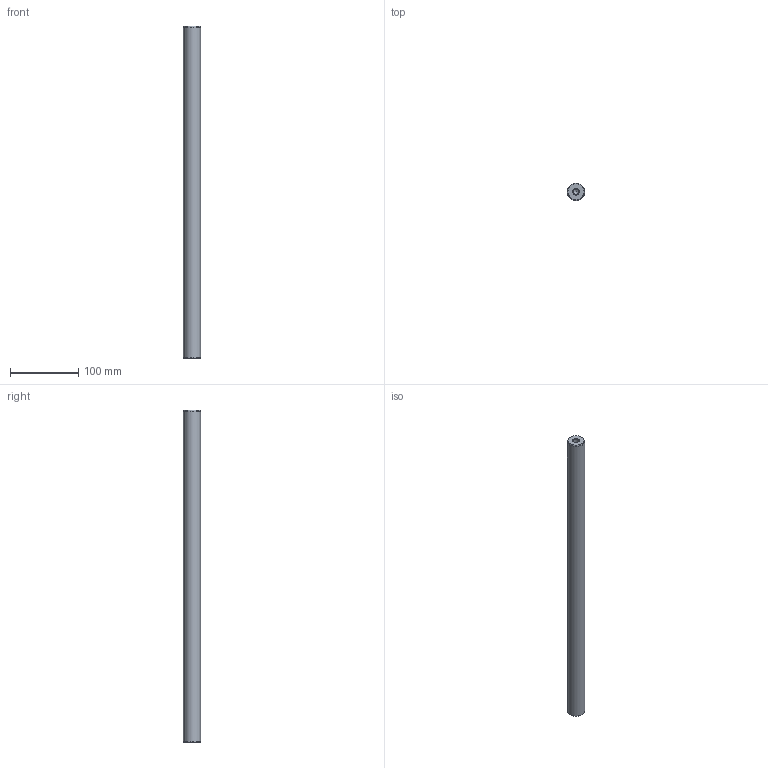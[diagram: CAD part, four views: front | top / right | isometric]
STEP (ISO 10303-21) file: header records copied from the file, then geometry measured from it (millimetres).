
FILE_DESCRIPTION( ( 'STEP AP214' ), '1' );
FILE_NAME( 'U:/Etudes/Top Solid/BIBLIO_Fournisseur/Colonnes UG/Ø25x486.step', '2004-12-22T12:44:46', ( ' ' ), ( ' ' ), 'XStep 1.0', ' ', ' ' );
FILE_SCHEMA( ( 'automotive_design' ) );
Length unit declared in the file: metre
Products named in the file (1): 1
Bounding box: 25 x 25 x 486 mm (x, y, z)
Volume: 235517.3 mm3; surface area: 40444.9 mm2
Topology: 1 solids, 1 shells, 13 faces, 27 edges, 16 vertices
Faces by surface type: cone 6, cylinder 5, plane 2
Full cylindrical faces by diameter (mm): 8.376 x4, 25 x1
Entity records: 382 total; most frequent: DIRECTION 52, CARTESIAN_POINT 40, AXIS2_PLACEMENT_3D 26, EDGE_LOOP 24, ORIENTED_EDGE 24, FACE_OUTER_BOUND 18, VERTEX_POINT 14, STYLED_ITEM 13
